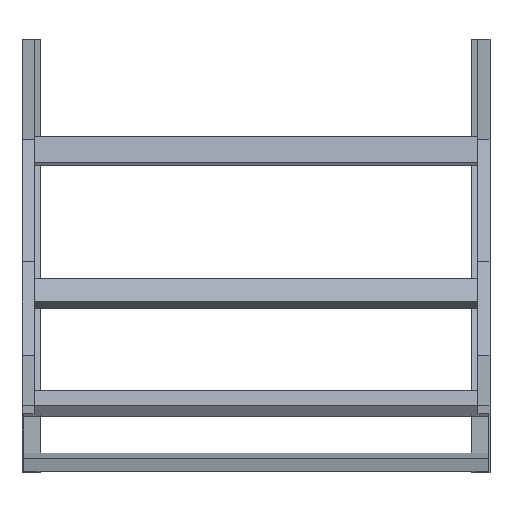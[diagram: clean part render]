
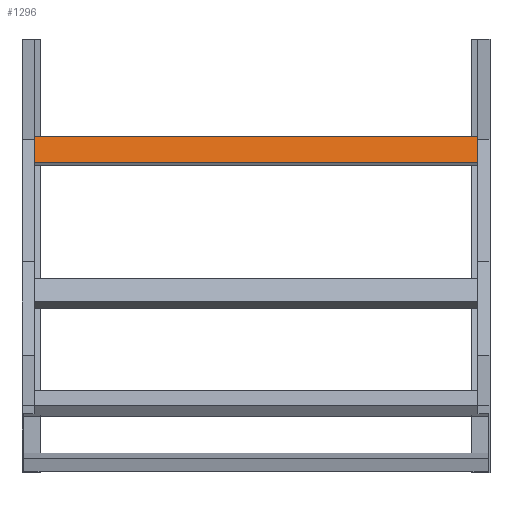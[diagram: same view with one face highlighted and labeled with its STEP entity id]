
A CAD part, top view. The second image highlights one B-rep face of the part: STEP entity #1296.
In plain terms, the highlighted planar face has unit normal (0, 0.195, 0.981) as drawn and (0, 1, 0) by its records, which use the part's own axes.
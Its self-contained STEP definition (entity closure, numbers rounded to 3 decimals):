
#62 = CARTESIAN_POINT ( 'NONE',  ( 348., 20., -20.25 ) ) ;
#135 = EDGE_CURVE ( 'NONE', #229, #430, #934, .T. ) ;
#229 = VERTEX_POINT ( 'NONE', #1589 ) ;
#417 = LINE ( 'NONE', #517, #1195 ) ;
#430 = VERTEX_POINT ( 'NONE', #610 ) ;
#451 = VERTEX_POINT ( 'NONE', #1074 ) ;
#456 = DIRECTION ( 'NONE',  ( 0., 0., -1. ) ) ;
#503 = LINE ( 'NONE', #990, #1068 ) ;
#517 = CARTESIAN_POINT ( 'NONE',  ( -348., 20., 20.25 ) ) ;
#551 = CARTESIAN_POINT ( 'NONE',  ( -348., 20., 20.25 ) ) ;
#560 = LINE ( 'NONE', #1297, #1862 ) ;
#602 = EDGE_CURVE ( 'NONE', #229, #451, #503, .T. ) ;
#610 = CARTESIAN_POINT ( 'NONE',  ( -348., 20., -20.25 ) ) ;
#640 = DIRECTION ( 'NONE',  ( -1., 0., 0. ) ) ;
#677 = DIRECTION ( 'NONE',  ( 0., 0., 1. ) ) ;
#717 = EDGE_LOOP ( 'NONE', ( #1059, #1736, #786, #1818 ) ) ;
#786 = ORIENTED_EDGE ( 'NONE', *, *, #602, .F. ) ;
#934 = LINE ( 'NONE', #62, #1695 ) ;
#938 = EDGE_CURVE ( 'NONE', #430, #1089, #417, .T. ) ;
#990 = CARTESIAN_POINT ( 'NONE',  ( 348., 20., 20.25 ) ) ;
#1056 = CARTESIAN_POINT ( 'NONE',  ( 348., 20., 20.25 ) ) ;
#1059 = ORIENTED_EDGE ( 'NONE', *, *, #938, .T. ) ;
#1068 = VECTOR ( 'NONE', #677, 1000. ) ;
#1074 = CARTESIAN_POINT ( 'NONE',  ( 348., 20., 20.25 ) ) ;
#1089 = VERTEX_POINT ( 'NONE', #551 ) ;
#1120 = DIRECTION ( 'NONE',  ( 0., 0., 1. ) ) ;
#1195 = VECTOR ( 'NONE', #1120, 1000. ) ;
#1296 = ADVANCED_FACE ( 'NONE', ( #1624 ), #1333, .F. ) ;
#1297 = CARTESIAN_POINT ( 'NONE',  ( 348., 20., 20.25 ) ) ;
#1333 = PLANE ( 'NONE',  #1646 ) ;
#1589 = CARTESIAN_POINT ( 'NONE',  ( 348., 20., -20.25 ) ) ;
#1624 = FACE_OUTER_BOUND ( 'NONE', #717, .T. ) ;
#1641 = DIRECTION ( 'NONE',  ( 0., -1., 0. ) ) ;
#1646 = AXIS2_PLACEMENT_3D ( 'NONE', #1056, #1641, #456 ) ;
#1695 = VECTOR ( 'NONE', #640, 1000. ) ;
#1736 = ORIENTED_EDGE ( 'NONE', *, *, #1841, .F. ) ;
#1818 = ORIENTED_EDGE ( 'NONE', *, *, #135, .T. ) ;
#1841 = EDGE_CURVE ( 'NONE', #451, #1089, #560, .T. ) ;
#1862 = VECTOR ( 'NONE', #1884, 1000. ) ;
#1884 = DIRECTION ( 'NONE',  ( -1., 0., 0. ) ) ;
